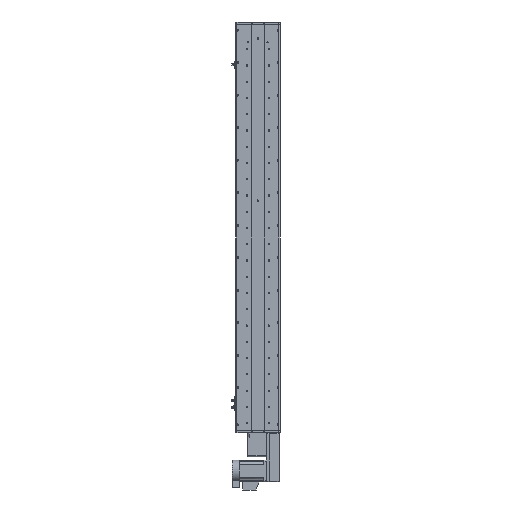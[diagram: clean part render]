
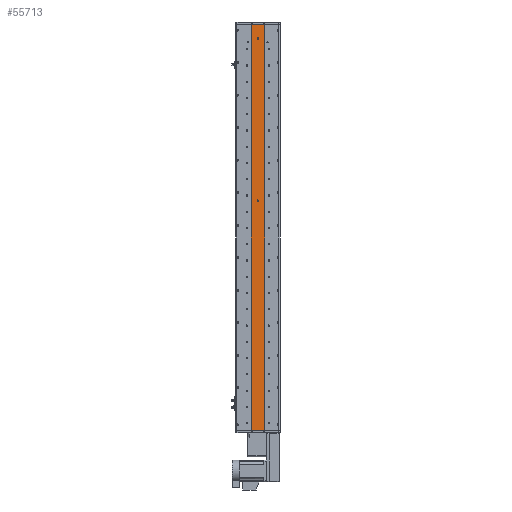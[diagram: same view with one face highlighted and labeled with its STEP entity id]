
A CAD part, front view. The second image highlights one B-rep face of the part: STEP entity #55713.
In plain terms, the highlighted planar face has unit normal (0, -1, 0).
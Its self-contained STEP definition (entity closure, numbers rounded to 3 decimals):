
#715 = DIRECTION ( 'NONE',  ( 0., -1., 0. ) ) ;
#1143 = CIRCLE ( 'NONE', #61577, 3. ) ;
#1466 = FACE_BOUND ( 'NONE', #28486, .T. ) ;
#3688 = EDGE_CURVE ( 'NONE', #43847, #15066, #17876, .T. ) ;
#4809 = EDGE_LOOP ( 'NONE', ( #10893, #33725, #31792, #23881 ) ) ;
#5983 = CARTESIAN_POINT ( 'NONE',  ( 0., 1., 701.5 ) ) ;
#7434 = EDGE_LOOP ( 'NONE', ( #49002, #45477 ) ) ;
#7998 = VERTEX_POINT ( 'NONE', #5983 ) ;
#9229 = CARTESIAN_POINT ( 'NONE',  ( 0., 1., 698.5 ) ) ;
#9551 = PLANE ( 'NONE',  #61936 ) ;
#10893 = ORIENTED_EDGE ( 'NONE', *, *, #52125, .T. ) ;
#11546 = AXIS2_PLACEMENT_3D ( 'NONE', #9229, #45349, #14416 ) ;
#11949 = EDGE_CURVE ( 'NONE', #15066, #43847, #1143, .T. ) ;
#12904 = DIRECTION ( 'NONE',  ( 0., 0., -1. ) ) ;
#14416 = DIRECTION ( 'NONE',  ( 0., 0., -1. ) ) ;
#14534 = LINE ( 'NONE', #14558, #55756 ) ;
#14558 = CARTESIAN_POINT ( 'NONE',  ( 25., 1., 748.5 ) ) ;
#14702 = DIRECTION ( 'NONE',  ( 0., 1., 0. ) ) ;
#15066 = VERTEX_POINT ( 'NONE', #66290 ) ;
#16200 = LINE ( 'NONE', #44432, #42044 ) ;
#16367 = CARTESIAN_POINT ( 'NONE',  ( 25., 1., 748.5 ) ) ;
#17876 = CIRCLE ( 'NONE', #22540, 3. ) ;
#17879 = CARTESIAN_POINT ( 'NONE',  ( -25., 1., 748.5 ) ) ;
#18836 = VERTEX_POINT ( 'NONE', #43994 ) ;
#18894 = DIRECTION ( 'NONE',  ( 1., 0., 0. ) ) ;
#21041 = LINE ( 'NONE', #16367, #46938 ) ;
#21751 = DIRECTION ( 'NONE',  ( 0., -1., 0. ) ) ;
#21826 = CIRCLE ( 'NONE', #61210, 3. ) ;
#22540 = AXIS2_PLACEMENT_3D ( 'NONE', #60752, #29776, #65954 ) ;
#23673 = CARTESIAN_POINT ( 'NONE',  ( 25., 1., 748.5 ) ) ;
#23881 = ORIENTED_EDGE ( 'NONE', *, *, #28405, .T. ) ;
#27179 = EDGE_CURVE ( 'NONE', #7998, #18836, #21826, .T. ) ;
#28151 = VECTOR ( 'NONE', #12904, 1000. ) ;
#28405 = EDGE_CURVE ( 'NONE', #54594, #44582, #55673, .T. ) ;
#28486 = EDGE_LOOP ( 'NONE', ( #36705, #38118 ) ) ;
#29776 = DIRECTION ( 'NONE',  ( 0., -1., 0. ) ) ;
#31671 = CARTESIAN_POINT ( 'NONE',  ( 0., 1., 98.5 ) ) ;
#31792 = ORIENTED_EDGE ( 'NONE', *, *, #52526, .F. ) ;
#33725 = ORIENTED_EDGE ( 'NONE', *, *, #45060, .F. ) ;
#35626 = CIRCLE ( 'NONE', #11546, 3. ) ;
#36565 = EDGE_CURVE ( 'NONE', #18836, #7998, #35626, .T. ) ;
#36705 = ORIENTED_EDGE ( 'NONE', *, *, #11949, .F. ) ;
#36864 = DIRECTION ( 'NONE',  ( 0., 0., -1. ) ) ;
#38118 = ORIENTED_EDGE ( 'NONE', *, *, #3688, .F. ) ;
#38403 = CARTESIAN_POINT ( 'NONE',  ( -25., 1., 748.5 ) ) ;
#42044 = VECTOR ( 'NONE', #18894, 1000. ) ;
#42719 = FACE_OUTER_BOUND ( 'NONE', #4809, .T. ) ;
#43847 = VERTEX_POINT ( 'NONE', #45881 ) ;
#43994 = CARTESIAN_POINT ( 'NONE',  ( 0., 1., 695.5 ) ) ;
#44432 = CARTESIAN_POINT ( 'NONE',  ( 25., 1., -748.5 ) ) ;
#44582 = VERTEX_POINT ( 'NONE', #53664 ) ;
#45060 = EDGE_CURVE ( 'NONE', #56169, #49906, #21041, .T. ) ;
#45349 = DIRECTION ( 'NONE',  ( 0., -1., 0. ) ) ;
#45477 = ORIENTED_EDGE ( 'NONE', *, *, #27179, .F. ) ;
#45495 = DIRECTION ( 'NONE',  ( 1., 0., 0. ) ) ;
#45881 = CARTESIAN_POINT ( 'NONE',  ( 0., 1., 101.5 ) ) ;
#46938 = VECTOR ( 'NONE', #57721, 1000. ) ;
#49002 = ORIENTED_EDGE ( 'NONE', *, *, #36565, .F. ) ;
#49906 = VERTEX_POINT ( 'NONE', #58736 ) ;
#50886 = DIRECTION ( 'NONE',  ( 0., 0., 1. ) ) ;
#52125 = EDGE_CURVE ( 'NONE', #44582, #49906, #16200, .T. ) ;
#52526 = EDGE_CURVE ( 'NONE', #54594, #56169, #14534, .T. ) ;
#52697 = CARTESIAN_POINT ( 'NONE',  ( 0., 1., 698.5 ) ) ;
#53664 = CARTESIAN_POINT ( 'NONE',  ( -25., 1., -748.5 ) ) ;
#54594 = VERTEX_POINT ( 'NONE', #38403 ) ;
#55673 = LINE ( 'NONE', #17879, #28151 ) ;
#55713 = ADVANCED_FACE ( 'NONE', ( #1466, #56460, #42719 ), #9551, .F. ) ;
#55756 = VECTOR ( 'NONE', #45495, 1000. ) ;
#56169 = VERTEX_POINT ( 'NONE', #23673 ) ;
#56460 = FACE_BOUND ( 'NONE', #7434, .T. ) ;
#57721 = DIRECTION ( 'NONE',  ( 0., 0., -1. ) ) ;
#57934 = DIRECTION ( 'NONE',  ( 0., 0., -1. ) ) ;
#58736 = CARTESIAN_POINT ( 'NONE',  ( 25., 1., -748.5 ) ) ;
#60752 = CARTESIAN_POINT ( 'NONE',  ( 0., 1., 98.5 ) ) ;
#61037 = CARTESIAN_POINT ( 'NONE',  ( 25., 1., 748.5 ) ) ;
#61210 = AXIS2_PLACEMENT_3D ( 'NONE', #52697, #21751, #57934 ) ;
#61577 = AXIS2_PLACEMENT_3D ( 'NONE', #31671, #715, #36864 ) ;
#61936 = AXIS2_PLACEMENT_3D ( 'NONE', #61037, #14702, #50886 ) ;
#65954 = DIRECTION ( 'NONE',  ( 0., 0., -1. ) ) ;
#66290 = CARTESIAN_POINT ( 'NONE',  ( 0., 1., 95.5 ) ) ;
